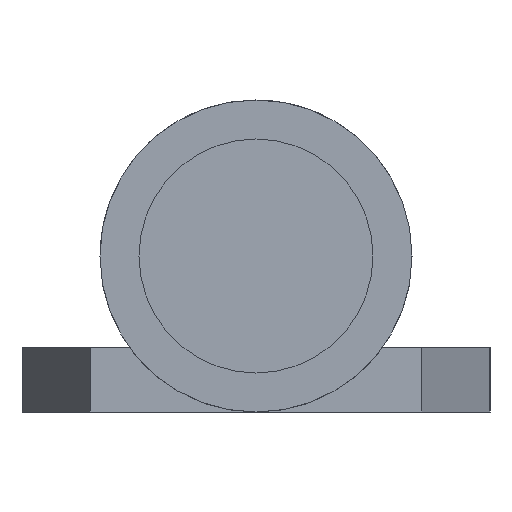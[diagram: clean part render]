
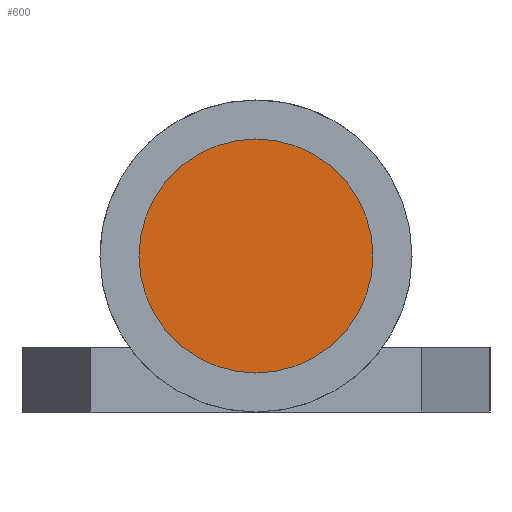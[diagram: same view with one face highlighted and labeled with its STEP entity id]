
A CAD part, left-side view. The second image highlights one B-rep face of the part: STEP entity #600.
In plain terms, the highlighted planar face has unit normal (-1, 0, 0).
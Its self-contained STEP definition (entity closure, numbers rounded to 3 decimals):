
#3 = FACE_OUTER_BOUND ( 'NONE', #170, .T. ) ;
#12 = CARTESIAN_POINT ( 'NONE',  ( -4., 0., 2. ) ) ;
#14 = CARTESIAN_POINT ( 'NONE',  ( -4., 0., 14. ) ) ;
#17 = VERTEX_POINT ( 'NONE', #12 ) ;
#18 = VERTEX_POINT ( 'NONE', #14 ) ;
#91 = ORIENTED_EDGE ( 'NONE', *, *, #210, .T. ) ;
#99 = ORIENTED_EDGE ( 'NONE', *, *, #249, .T. ) ;
#129 = CIRCLE ( 'NONE', #254, 6. ) ;
#170 = EDGE_LOOP ( 'NONE', ( #99, #91 ) ) ;
#210 = EDGE_CURVE ( 'NONE', #17, #18, #129, .T. ) ;
#249 = EDGE_CURVE ( 'NONE', #18, #17, #684, .T. ) ;
#254 = AXIS2_PLACEMENT_3D ( 'NONE', #333, #334, #335 ) ;
#261 = AXIS2_PLACEMENT_3D ( 'NONE', #457, #473, #474 ) ;
#275 = AXIS2_PLACEMENT_3D ( 'NONE', #546, #551, #552 ) ;
#333 = CARTESIAN_POINT ( 'NONE',  ( -4., 0., 8. ) ) ;
#334 = DIRECTION ( 'NONE',  ( -1., 0., 0. ) ) ;
#335 = DIRECTION ( 'NONE',  ( 0., 0., 1. ) ) ;
#457 = CARTESIAN_POINT ( 'NONE',  ( -4., 0., 8. ) ) ;
#473 = DIRECTION ( 'NONE',  ( -1., 0., 0. ) ) ;
#474 = DIRECTION ( 'NONE',  ( 0., 0., 1. ) ) ;
#546 = CARTESIAN_POINT ( 'NONE',  ( -4., 0., 8. ) ) ;
#548 = PLANE ( 'NONE',  #275 ) ;
#551 = DIRECTION ( 'NONE',  ( -1., 0., 0. ) ) ;
#552 = DIRECTION ( 'NONE',  ( 0., 0., 1. ) ) ;
#600 = ADVANCED_FACE ( 'NONE', ( #3 ), #548, .T. ) ;
#684 = CIRCLE ( 'NONE', #261, 6. ) ;
